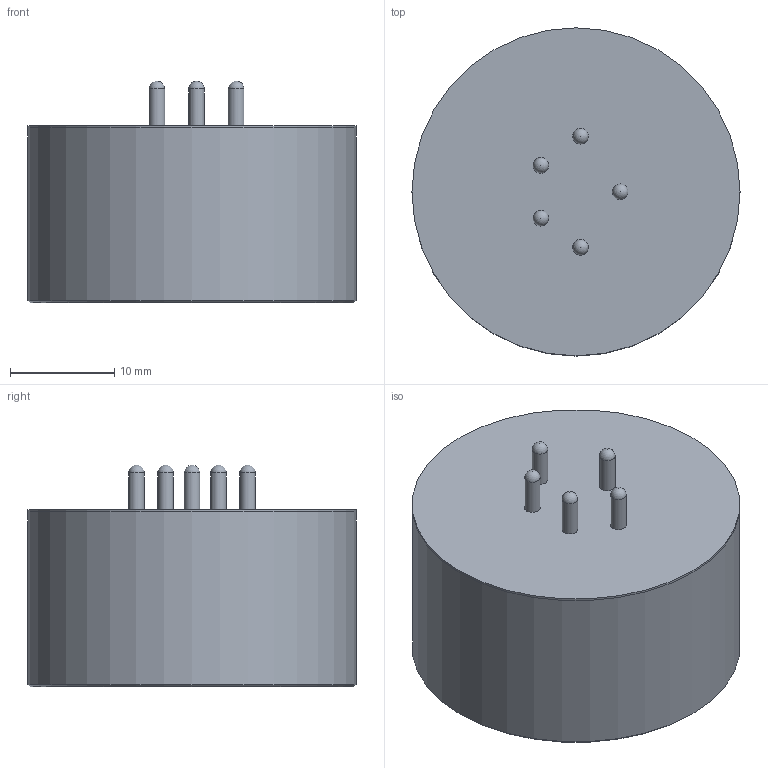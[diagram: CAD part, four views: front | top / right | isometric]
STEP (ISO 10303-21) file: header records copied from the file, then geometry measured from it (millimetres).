
FILE_DESCRIPTION( ( 'STEP AP214' ), '1' );
FILE_NAME( 'C:/Users/Master.ZEMA/Desktop/ME4001.stp', '2018-01-22T16:20:15', ( ' ' ), ( ' ' ), 'XStep 1.0', 'VISI-Series', ' ' );
FILE_SCHEMA( ( 'automotive_design' ) );
Length unit declared in the file: millimetre
Products named in the file (8): 1; 2; 3; 4; 5; 6; 7; 8
Bounding box: 31.5 x 31.5 x 21.3 mm (x, y, z)
Volume: 13055.9 mm3; surface area: 7393.8 mm2
Topology: 8 solids, 8 shells, 26 faces, 42 edges, 27 vertices
Faces by surface type: plane 11, cylinder 9, sphere 5, cone 1
Full cylindrical faces by diameter (mm): 1.5 x5, 24 x2, 31.5 x2
Entity records: 788 total; most frequent: DIRECTION 106, CARTESIAN_POINT 72, AXIS2_PLACEMENT_3D 53, EDGE_LOOP 38, ORIENTED_EDGE 38, FACE_OUTER_BOUND 35, STYLED_ITEM 26, PRESENTATION_STYLE_ASSIGNMENT 26
